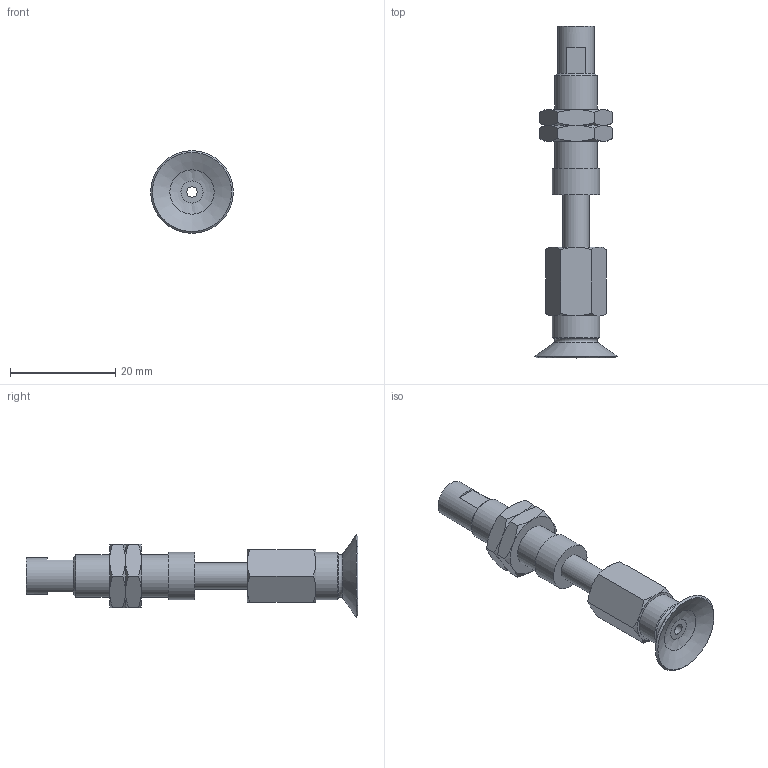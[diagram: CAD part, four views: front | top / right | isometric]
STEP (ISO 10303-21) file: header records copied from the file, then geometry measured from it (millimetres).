
FILE_DESCRIPTION(('STEP AP203'),'1');
FILE_NAME('.stp','2025-08-27T05:51:47',(' '),(' '),'Spatial InterOp 3D',' ',' ');
FILE_SCHEMA(('CONFIG_CONTROL_DESIGN'));
Length unit declared in the file: millimetre
Products named in the file (6): BNABPFTS-15A-10-※; ADAPTER; NAPATS-10A-10--M; Nut-15A-10-s; NAPFTS-15A-10-FBODY; BPFG-15A-※
Assembly tree (6 placements, depth 2):
  BNABPFTS-15A-10-※
    ADAPTER
    NAPATS-10A-10--M
    Nut-15A-10-s  x2
    NAPFTS-15A-10-FBODY
    BPFG-15A-※
Bounding box: 15.7 x 63 x 15.7 mm (x, y, z)
Volume: 3612.9 mm3; surface area: 4275.9 mm2
Topology: 6 solids, 6 shells, 113 faces, 234 edges, 140 vertices
Faces by surface type: cone 46, plane 41, cylinder 16, torus 9, bspline 1
Full cylindrical faces by diameter (mm): 2 x3, 4 x2, 4.134 x1, 5 x2, 6 x2, 7 x1, 7.188 x2, 8 x1, 9 x2
Entity records: 2667 total; most frequent: CARTESIAN_POINT 662, DIRECTION 364, ORIENTED_EDGE 290, AXIS2_PLACEMENT_3D 171, EDGE_CURVE 145, EDGE_LOOP 140, FACE_OUTER_BOUND 115, VERTEX_POINT 105
